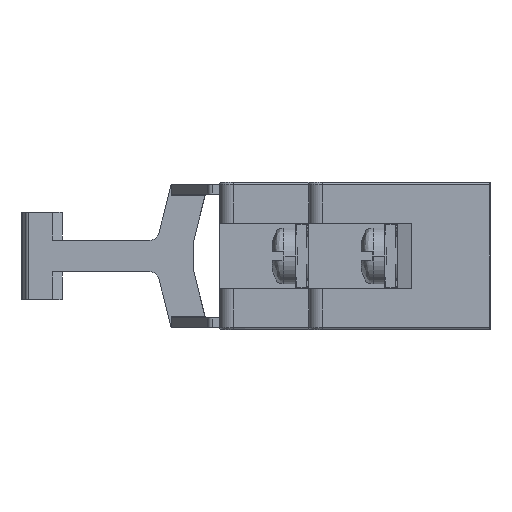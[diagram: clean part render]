
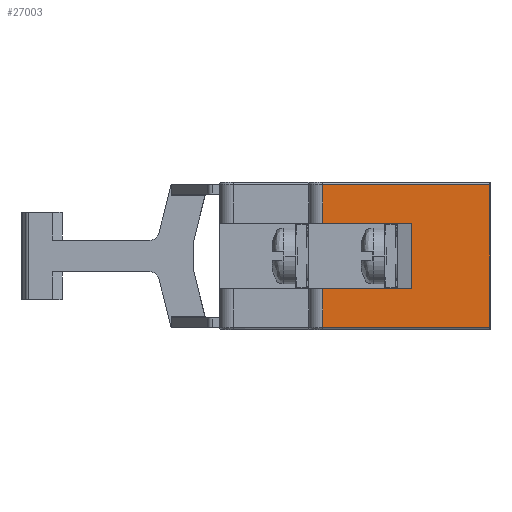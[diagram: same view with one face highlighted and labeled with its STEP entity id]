
A CAD part, left-side view. The second image highlights one B-rep face of the part: STEP entity #27003.
In plain terms, the highlighted planar face has unit normal (-1, 0, 0).
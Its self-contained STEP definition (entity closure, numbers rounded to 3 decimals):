
#1529 = CARTESIAN_POINT ( 'NONE',  ( -34.841, -11.451, 8. ) ) ;
#2286 = LINE ( 'NONE', #9740, #4217 ) ;
#2512 = CARTESIAN_POINT ( 'NONE',  ( -34.841, 6.499, -3.5 ) ) ;
#2672 = CARTESIAN_POINT ( 'NONE',  ( -34.841, 6.499, -8. ) ) ;
#2927 = LINE ( 'NONE', #2672, #22791 ) ;
#3233 = EDGE_CURVE ( 'NONE', #18180, #4024, #2927, .T. ) ;
#3398 = ORIENTED_EDGE ( 'NONE', *, *, #23328, .F. ) ;
#3885 = EDGE_LOOP ( 'NONE', ( #12829, #37017, #3398, #11079, #16549, #37075, #42846, #33424 ) ) ;
#3986 = LINE ( 'NONE', #11197, #4456 ) ;
#4024 = VERTEX_POINT ( 'NONE', #13239 ) ;
#4217 = VECTOR ( 'NONE', #47619, 1000. ) ;
#4456 = VECTOR ( 'NONE', #7478, 1000. ) ;
#4753 = LINE ( 'NONE', #1529, #23885 ) ;
#5390 = LINE ( 'NONE', #43293, #43482 ) ;
#5486 = DIRECTION ( 'NONE',  ( 0., 1., 0. ) ) ;
#7478 = DIRECTION ( 'NONE',  ( 0., 1., 0. ) ) ;
#8611 = VERTEX_POINT ( 'NONE', #40829 ) ;
#9740 = CARTESIAN_POINT ( 'NONE',  ( -34.841, -3.051, -3.075 ) ) ;
#11079 = ORIENTED_EDGE ( 'NONE', *, *, #35922, .T. ) ;
#11197 = CARTESIAN_POINT ( 'NONE',  ( -34.841, -3.051, 3.5 ) ) ;
#11207 = CARTESIAN_POINT ( 'NONE',  ( -34.841, 6.499, -3.5 ) ) ;
#11287 = CARTESIAN_POINT ( 'NONE',  ( -34.841, -11.451, -7.65 ) ) ;
#12203 = CARTESIAN_POINT ( 'NONE',  ( -34.841, -11.451, 8. ) ) ;
#12671 = LINE ( 'NONE', #21067, #19517 ) ;
#12687 = DIRECTION ( 'NONE',  ( 1., 0., 0. ) ) ;
#12829 = ORIENTED_EDGE ( 'NONE', *, *, #3233, .T. ) ;
#13239 = CARTESIAN_POINT ( 'NONE',  ( -34.841, 6.499, -7.65 ) ) ;
#13937 = VERTEX_POINT ( 'NONE', #27338 ) ;
#14063 = EDGE_CURVE ( 'NONE', #8611, #37887, #2286, .T. ) ;
#15898 = FACE_OUTER_BOUND ( 'NONE', #3885, .T. ) ;
#16549 = ORIENTED_EDGE ( 'NONE', *, *, #30256, .T. ) ;
#17396 = DIRECTION ( 'NONE',  ( 0., 0., -1. ) ) ;
#18180 = VERTEX_POINT ( 'NONE', #11207 ) ;
#19103 = CARTESIAN_POINT ( 'NONE',  ( -34.841, -3.051, -3.5 ) ) ;
#19517 = VECTOR ( 'NONE', #27776, 1000. ) ;
#19543 = AXIS2_PLACEMENT_3D ( 'NONE', #12203, #12687, #5486 ) ;
#21067 = CARTESIAN_POINT ( 'NONE',  ( -34.841, -11.451, -7.65 ) ) ;
#21835 = DIRECTION ( 'NONE',  ( 0., -1., 0. ) ) ;
#22163 = EDGE_CURVE ( 'NONE', #4024, #25484, #12671, .T. ) ;
#22791 = VECTOR ( 'NONE', #25719, 1000. ) ;
#23328 = EDGE_CURVE ( 'NONE', #13937, #25484, #4753, .T. ) ;
#23885 = VECTOR ( 'NONE', #47823, 1000. ) ;
#24474 = DIRECTION ( 'NONE',  ( 0., 1., 0. ) ) ;
#24911 = VERTEX_POINT ( 'NONE', #32183 ) ;
#25484 = VERTEX_POINT ( 'NONE', #11287 ) ;
#25719 = DIRECTION ( 'NONE',  ( 0., 0., -1. ) ) ;
#27003 = ADVANCED_FACE ( 'NONE', ( #15898 ), #31012, .F. ) ;
#27338 = CARTESIAN_POINT ( 'NONE',  ( -34.841, -11.451, 7.65 ) ) ;
#27525 = VERTEX_POINT ( 'NONE', #32841 ) ;
#27776 = DIRECTION ( 'NONE',  ( 0., -1., 0. ) ) ;
#30256 = EDGE_CURVE ( 'NONE', #24911, #27525, #47410, .T. ) ;
#31012 = PLANE ( 'NONE',  #19543 ) ;
#32183 = CARTESIAN_POINT ( 'NONE',  ( -34.841, 6.499, 7.65 ) ) ;
#32841 = CARTESIAN_POINT ( 'NONE',  ( -34.841, 6.499, 3.5 ) ) ;
#33424 = ORIENTED_EDGE ( 'NONE', *, *, #46880, .F. ) ;
#35922 = EDGE_CURVE ( 'NONE', #13937, #24911, #5390, .T. ) ;
#36710 = CARTESIAN_POINT ( 'NONE',  ( -34.841, 6.499, 3.075 ) ) ;
#37015 = VECTOR ( 'NONE', #17396, 1000. ) ;
#37017 = ORIENTED_EDGE ( 'NONE', *, *, #22163, .T. ) ;
#37075 = ORIENTED_EDGE ( 'NONE', *, *, #47062, .F. ) ;
#37887 = VERTEX_POINT ( 'NONE', #19103 ) ;
#38490 = VECTOR ( 'NONE', #21835, 1000. ) ;
#40829 = CARTESIAN_POINT ( 'NONE',  ( -34.841, -3.051, 3.5 ) ) ;
#42846 = ORIENTED_EDGE ( 'NONE', *, *, #14063, .T. ) ;
#43293 = CARTESIAN_POINT ( 'NONE',  ( -34.841, 6.499, 7.65 ) ) ;
#43482 = VECTOR ( 'NONE', #24474, 1000. ) ;
#46880 = EDGE_CURVE ( 'NONE', #18180, #37887, #47387, .T. ) ;
#47062 = EDGE_CURVE ( 'NONE', #8611, #27525, #3986, .T. ) ;
#47387 = LINE ( 'NONE', #2512, #38490 ) ;
#47410 = LINE ( 'NONE', #36710, #37015 ) ;
#47619 = DIRECTION ( 'NONE',  ( 0., 0., -1. ) ) ;
#47823 = DIRECTION ( 'NONE',  ( 0., 0., -1. ) ) ;
